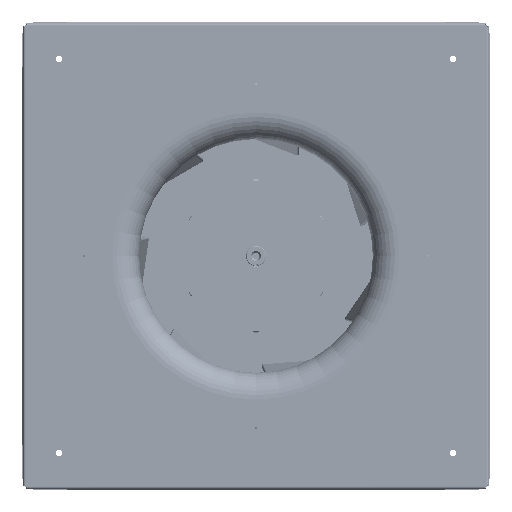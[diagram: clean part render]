
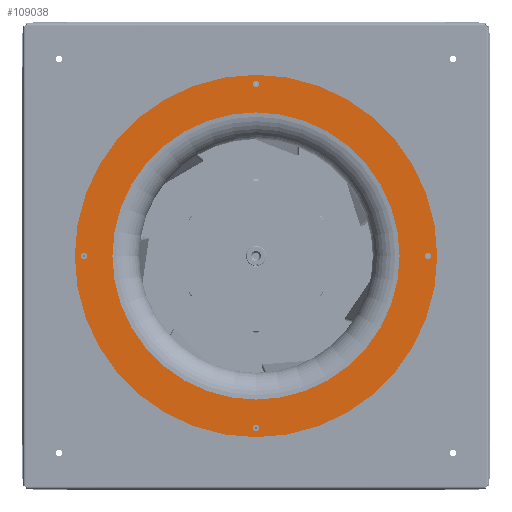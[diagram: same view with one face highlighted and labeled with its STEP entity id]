
A CAD part, front view. The second image highlights one B-rep face of the part: STEP entity #109038.
In plain terms, the highlighted planar face has unit normal (0, -1, 0) as drawn and (0, 0, 1) by its records, which use the part's own axes.
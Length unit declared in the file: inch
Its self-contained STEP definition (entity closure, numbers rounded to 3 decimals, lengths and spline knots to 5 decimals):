
#3483 = DIRECTION ( 'NONE',  ( 0., 1., 0. ) ) ;
#3991 = DIRECTION ( 'NONE',  ( 1., 0., 0. ) ) ;
#3993 = DIRECTION ( 'NONE',  ( 0., 0., 1. ) ) ;
#5044 = VERTEX_POINT ( 'NONE', #188860 ) ;
#10224 = AXIS2_PLACEMENT_3D ( 'NONE', #178313, #215658, #3483 ) ;
#13220 = AXIS2_PLACEMENT_3D ( 'NONE', #162295, #120001, #143038 ) ;
#16659 = CARTESIAN_POINT ( 'NONE',  ( 10.11811, 0., 0. ) ) ;
#16915 = DIRECTION ( 'NONE',  ( 0., 0., 1. ) ) ;
#19471 = CARTESIAN_POINT ( 'NONE',  ( 9.6063, -0.16732, 0. ) ) ;
#22678 = EDGE_CURVE ( 'NONE', #5044, #194516, #183430, .T. ) ;
#22740 = CARTESIAN_POINT ( 'NONE',  ( 0., -9.6063, 0. ) ) ;
#24733 = VERTEX_POINT ( 'NONE', #155839 ) ;
#25737 = AXIS2_PLACEMENT_3D ( 'NONE', #58413, #172862, #135557 ) ;
#25922 = AXIS2_PLACEMENT_3D ( 'NONE', #111484, #33068, #191184 ) ;
#29773 = VERTEX_POINT ( 'NONE', #19471 ) ;
#32601 = CARTESIAN_POINT ( 'NONE',  ( 0., 10.11811, 0. ) ) ;
#33068 = DIRECTION ( 'NONE',  ( 0., 0., 1. ) ) ;
#34537 = CARTESIAN_POINT ( 'NONE',  ( 9.6063, 0.16732, 0. ) ) ;
#40605 = EDGE_CURVE ( 'NONE', #99185, #24733, #209226, .T. ) ;
#43983 = CIRCLE ( 'NONE', #142493, 0.16732 ) ;
#44074 = ORIENTED_EDGE ( 'NONE', *, *, #52390, .F. ) ;
#51316 = ORIENTED_EDGE ( 'NONE', *, *, #40605, .F. ) ;
#51343 = ORIENTED_EDGE ( 'NONE', *, *, #120281, .F. ) ;
#52390 = EDGE_CURVE ( 'NONE', #238104, #118325, #83093, .T. ) ;
#53150 = FACE_BOUND ( 'NONE', #100993, .T. ) ;
#54170 = CARTESIAN_POINT ( 'NONE',  ( 0.16732, 9.6063, 0. ) ) ;
#56915 = DIRECTION ( 'NONE',  ( 0., 0., -1. ) ) ;
#58413 = CARTESIAN_POINT ( 'NONE',  ( 9.6063, 0., 0. ) ) ;
#59142 = ORIENTED_EDGE ( 'NONE', *, *, #242236, .F. ) ;
#64073 = ORIENTED_EDGE ( 'NONE', *, *, #181542, .F. ) ;
#64492 = ORIENTED_EDGE ( 'NONE', *, *, #86265, .F. ) ;
#65656 = DIRECTION ( 'NONE',  ( 0., 0., 1. ) ) ;
#72941 = DIRECTION ( 'NONE',  ( 0., 0., 1. ) ) ;
#73508 = VERTEX_POINT ( 'NONE', #247045 ) ;
#74863 = AXIS2_PLACEMENT_3D ( 'NONE', #163061, #159286, #143806 ) ;
#76231 = FACE_OUTER_BOUND ( 'NONE', #215919, .T. ) ;
#82329 = DIRECTION ( 'NONE',  ( 0., 1., 0. ) ) ;
#83093 = CIRCLE ( 'NONE', #74863, 0.16732 ) ;
#85483 = EDGE_CURVE ( 'NONE', #97807, #163358, #102543, .T. ) ;
#86265 = EDGE_CURVE ( 'NONE', #163358, #97807, #138596, .T. ) ;
#92761 = DIRECTION ( 'NONE',  ( 0., 0., 1. ) ) ;
#97807 = VERTEX_POINT ( 'NONE', #110266 ) ;
#99185 = VERTEX_POINT ( 'NONE', #126556 ) ;
#100993 = EDGE_LOOP ( 'NONE', ( #59142, #64073 ) ) ;
#102543 = CIRCLE ( 'NONE', #205136, 8.01772 ) ;
#105518 = EDGE_CURVE ( 'NONE', #194516, #5044, #144582, .T. ) ;
#109038 = ADVANCED_FACE ( 'NONE', ( #190706, #193240, #53150, #111005, #248563, #76231 ), #189445, .F. ) ;
#110068 = ORIENTED_EDGE ( 'NONE', *, *, #105518, .T. ) ;
#110255 = VERTEX_POINT ( 'NONE', #34537 ) ;
#110266 = CARTESIAN_POINT ( 'NONE',  ( 8.01772, 0., 0. ) ) ;
#111005 = FACE_BOUND ( 'NONE', #184748, .T. ) ;
#111484 = CARTESIAN_POINT ( 'NONE',  ( 9.6063, 0., 0. ) ) ;
#113795 = ORIENTED_EDGE ( 'NONE', *, *, #85483, .F. ) ;
#118325 = VERTEX_POINT ( 'NONE', #54170 ) ;
#120001 = DIRECTION ( 'NONE',  ( 0., 0., 1. ) ) ;
#120281 = EDGE_CURVE ( 'NONE', #118325, #238104, #43983, .T. ) ;
#121115 = CIRCLE ( 'NONE', #10224, 0.16732 ) ;
#123522 = CARTESIAN_POINT ( 'NONE',  ( 0., 0., 0. ) ) ;
#126556 = CARTESIAN_POINT ( 'NONE',  ( 0.16732, -9.6063, 0. ) ) ;
#127331 = EDGE_CURVE ( 'NONE', #110255, #29773, #247651, .T. ) ;
#135557 = DIRECTION ( 'NONE',  ( 0., -1., 0. ) ) ;
#138596 = CIRCLE ( 'NONE', #146873, 8.01772 ) ;
#142493 = AXIS2_PLACEMENT_3D ( 'NONE', #236746, #3993, #180091 ) ;
#143038 = DIRECTION ( 'NONE',  ( 1., 0., 0. ) ) ;
#143806 = DIRECTION ( 'NONE',  ( 1., 0., 0. ) ) ;
#144582 = CIRCLE ( 'NONE', #13220, 10.11811 ) ;
#145190 = ORIENTED_EDGE ( 'NONE', *, *, #252357, .F. ) ;
#146873 = AXIS2_PLACEMENT_3D ( 'NONE', #225964, #72941, #151293 ) ;
#149493 = CARTESIAN_POINT ( 'NONE',  ( -9.6063, -0.16732, 0. ) ) ;
#151293 = DIRECTION ( 'NONE',  ( 1., 0., 0. ) ) ;
#155262 = EDGE_CURVE ( 'NONE', #29773, #110255, #235191, .T. ) ;
#155839 = CARTESIAN_POINT ( 'NONE',  ( -0.16732, -9.6063, 0. ) ) ;
#158440 = AXIS2_PLACEMENT_3D ( 'NONE', #22740, #200188, #178303 ) ;
#158701 = ORIENTED_EDGE ( 'NONE', *, *, #155262, .F. ) ;
#159286 = DIRECTION ( 'NONE',  ( 0., 0., 1. ) ) ;
#159518 = EDGE_LOOP ( 'NONE', ( #158701, #217046 ) ) ;
#162295 = CARTESIAN_POINT ( 'NONE',  ( 0., 0., 0. ) ) ;
#163061 = CARTESIAN_POINT ( 'NONE',  ( 0., 9.6063, 0. ) ) ;
#163358 = VERTEX_POINT ( 'NONE', #200665 ) ;
#169912 = VERTEX_POINT ( 'NONE', #149493 ) ;
#172277 = AXIS2_PLACEMENT_3D ( 'NONE', #248332, #92761, #230331 ) ;
#172862 = DIRECTION ( 'NONE',  ( 0., 0., 1. ) ) ;
#178303 = DIRECTION ( 'NONE',  ( -1., 0., 0. ) ) ;
#178313 = CARTESIAN_POINT ( 'NONE',  ( -9.6063, 0., 0. ) ) ;
#180091 = DIRECTION ( 'NONE',  ( 1., 0., 0. ) ) ;
#180684 = ORIENTED_EDGE ( 'NONE', *, *, #22678, .T. ) ;
#181542 = EDGE_CURVE ( 'NONE', #169912, #73508, #121115, .T. ) ;
#183430 = CIRCLE ( 'NONE', #216330, 10.11811 ) ;
#184748 = EDGE_LOOP ( 'NONE', ( #145190, #51316 ) ) ;
#186453 = AXIS2_PLACEMENT_3D ( 'NONE', #32601, #56915, #231816 ) ;
#186492 = CARTESIAN_POINT ( 'NONE',  ( -0.16732, 9.6063, 0. ) ) ;
#188860 = CARTESIAN_POINT ( 'NONE',  ( -10.11811, 0., 0. ) ) ;
#189445 = PLANE ( 'NONE',  #186453 ) ;
#190706 = FACE_BOUND ( 'NONE', #224256, .T. ) ;
#191184 = DIRECTION ( 'NONE',  ( 0., -1., 0. ) ) ;
#193240 = FACE_BOUND ( 'NONE', #198511, .T. ) ;
#194516 = VERTEX_POINT ( 'NONE', #16659 ) ;
#198511 = EDGE_LOOP ( 'NONE', ( #51343, #44074 ) ) ;
#200188 = DIRECTION ( 'NONE',  ( 0., 0., 1. ) ) ;
#200665 = CARTESIAN_POINT ( 'NONE',  ( -8.01772, 0., 0. ) ) ;
#205136 = AXIS2_PLACEMENT_3D ( 'NONE', #236690, #16915, #253458 ) ;
#209226 = CIRCLE ( 'NONE', #172277, 0.16732 ) ;
#214333 = CIRCLE ( 'NONE', #226635, 0.16732 ) ;
#215658 = DIRECTION ( 'NONE',  ( 0., 0., 1. ) ) ;
#215919 = EDGE_LOOP ( 'NONE', ( #110068, #180684 ) ) ;
#216330 = AXIS2_PLACEMENT_3D ( 'NONE', #123522, #65656, #3991 ) ;
#217046 = ORIENTED_EDGE ( 'NONE', *, *, #127331, .F. ) ;
#224256 = EDGE_LOOP ( 'NONE', ( #113795, #64492 ) ) ;
#225964 = CARTESIAN_POINT ( 'NONE',  ( 0., 0., 0. ) ) ;
#226635 = AXIS2_PLACEMENT_3D ( 'NONE', #239173, #235383, #82329 ) ;
#230331 = DIRECTION ( 'NONE',  ( -1., 0., 0. ) ) ;
#231816 = DIRECTION ( 'NONE',  ( 0., -1., 0. ) ) ;
#235191 = CIRCLE ( 'NONE', #25737, 0.16732 ) ;
#235383 = DIRECTION ( 'NONE',  ( 0., 0., 1. ) ) ;
#236690 = CARTESIAN_POINT ( 'NONE',  ( 0., 0., 0. ) ) ;
#236746 = CARTESIAN_POINT ( 'NONE',  ( 0., 9.6063, 0. ) ) ;
#238104 = VERTEX_POINT ( 'NONE', #186492 ) ;
#239173 = CARTESIAN_POINT ( 'NONE',  ( -9.6063, 0., 0. ) ) ;
#242236 = EDGE_CURVE ( 'NONE', #73508, #169912, #214333, .T. ) ;
#247045 = CARTESIAN_POINT ( 'NONE',  ( -9.6063, 0.16732, 0. ) ) ;
#247651 = CIRCLE ( 'NONE', #25922, 0.16732 ) ;
#248332 = CARTESIAN_POINT ( 'NONE',  ( 0., -9.6063, 0. ) ) ;
#248563 = FACE_BOUND ( 'NONE', #159518, .T. ) ;
#248790 = CIRCLE ( 'NONE', #158440, 0.16732 ) ;
#252357 = EDGE_CURVE ( 'NONE', #24733, #99185, #248790, .T. ) ;
#253458 = DIRECTION ( 'NONE',  ( 1., 0., 0. ) ) ;
